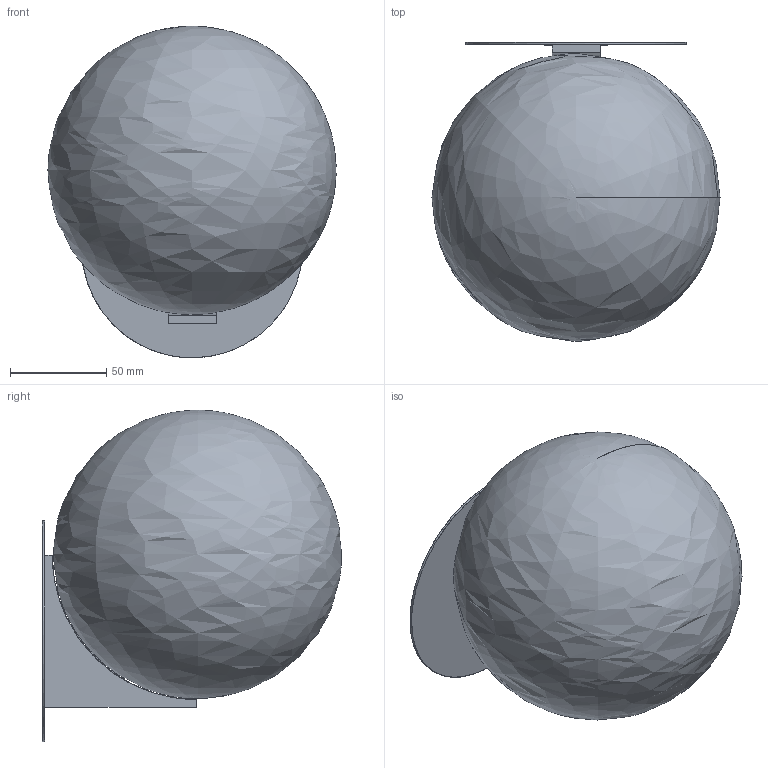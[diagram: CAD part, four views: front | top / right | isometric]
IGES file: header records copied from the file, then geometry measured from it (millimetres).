
Global section: file name: /Volumes/Company/WIP/Marlen/WFH/Website/SALES 3D/BAC/WALL/SS150/MA_BAC SS150_120V_2017.igs; preprocessor: Trout Lake IGES 012 Dec  4 2019; date: 201202.111834; units: millimetre
Bounding box: 149.95 x 155.74 x 172.54 mm (x, y, z)
Surface area: 98719.9 mm2 (no closed solid volume)
Topology: 0 solids, 0 shells, 11 faces, 68 edges, 64 vertices
Faces by surface type: bspline 11
